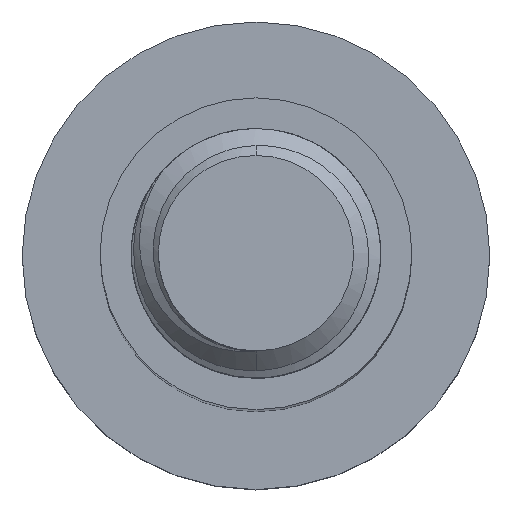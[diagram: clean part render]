
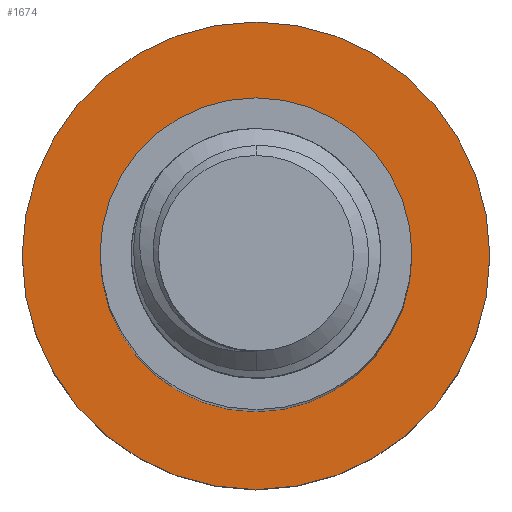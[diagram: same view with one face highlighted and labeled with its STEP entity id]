
A CAD part, top view. The second image highlights one B-rep face of the part: STEP entity #1674.
In plain terms, the highlighted planar face has unit normal (0, 0, 1).
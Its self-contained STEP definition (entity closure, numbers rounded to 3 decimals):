
#110 = ORIENTED_EDGE ( 'NONE', *, *, #5527, .F. ) ;
#212 = CARTESIAN_POINT ( 'NONE',  ( 0., 0., -75. ) ) ;
#357 = CARTESIAN_POINT ( 'NONE',  ( 15., 0., -75. ) ) ;
#383 = DIRECTION ( 'NONE',  ( -1., 0., 0. ) ) ;
#620 = FACE_OUTER_BOUND ( 'NONE', #3389, .T. ) ;
#838 = CARTESIAN_POINT ( 'NONE',  ( 0., 0., -75. ) ) ;
#977 = CIRCLE ( 'NONE', #4563, 15. ) ;
#1075 = PLANE ( 'NONE',  #4173 ) ;
#1115 = EDGE_LOOP ( 'NONE', ( #5613, #1729 ) ) ;
#1425 = VERTEX_POINT ( 'NONE', #2011 ) ;
#1674 = ADVANCED_FACE ( 'NONE', ( #1898, #620 ), #1075, .F. ) ;
#1696 = AXIS2_PLACEMENT_3D ( 'NONE', #5561, #3297, #3266 ) ;
#1729 = ORIENTED_EDGE ( 'NONE', *, *, #2537, .T. ) ;
#1869 = CIRCLE ( 'NONE', #4368, 10. ) ;
#1898 = FACE_BOUND ( 'NONE', #1115, .T. ) ;
#2011 = CARTESIAN_POINT ( 'NONE',  ( -15., 0., -75. ) ) ;
#2241 = AXIS2_PLACEMENT_3D ( 'NONE', #2725, #4499, #3662 ) ;
#2508 = DIRECTION ( 'NONE',  ( 0., 0., -1. ) ) ;
#2537 = EDGE_CURVE ( 'NONE', #4663, #3151, #1869, .T. ) ;
#2625 = VERTEX_POINT ( 'NONE', #357 ) ;
#2725 = CARTESIAN_POINT ( 'NONE',  ( 0., 0., -75. ) ) ;
#2768 = ORIENTED_EDGE ( 'NONE', *, *, #3042, .F. ) ;
#2816 = DIRECTION ( 'NONE',  ( 0., 0., -1. ) ) ;
#2853 = CARTESIAN_POINT ( 'NONE',  ( -10., 0., -75. ) ) ;
#2856 = CARTESIAN_POINT ( 'NONE',  ( 0., 0., -75. ) ) ;
#3042 = EDGE_CURVE ( 'NONE', #1425, #2625, #4279, .T. ) ;
#3045 = DIRECTION ( 'NONE',  ( 0., 0., -1. ) ) ;
#3151 = VERTEX_POINT ( 'NONE', #2853 ) ;
#3266 = DIRECTION ( 'NONE',  ( -1., 0., 0. ) ) ;
#3297 = DIRECTION ( 'NONE',  ( 0., 0., -1. ) ) ;
#3389 = EDGE_LOOP ( 'NONE', ( #110, #2768 ) ) ;
#3662 = DIRECTION ( 'NONE',  ( -1., 0., 0. ) ) ;
#4173 = AXIS2_PLACEMENT_3D ( 'NONE', #212, #2816, #5061 ) ;
#4279 = CIRCLE ( 'NONE', #1696, 15. ) ;
#4368 = AXIS2_PLACEMENT_3D ( 'NONE', #838, #3045, #383 ) ;
#4499 = DIRECTION ( 'NONE',  ( 0., 0., -1. ) ) ;
#4563 = AXIS2_PLACEMENT_3D ( 'NONE', #2856, #2508, #5104 ) ;
#4663 = VERTEX_POINT ( 'NONE', #5453 ) ;
#4752 = EDGE_CURVE ( 'NONE', #3151, #4663, #4755, .T. ) ;
#4755 = CIRCLE ( 'NONE', #2241, 10. ) ;
#5061 = DIRECTION ( 'NONE',  ( -1., 0., 0. ) ) ;
#5104 = DIRECTION ( 'NONE',  ( -1., 0., 0. ) ) ;
#5453 = CARTESIAN_POINT ( 'NONE',  ( 10., 0., -75. ) ) ;
#5527 = EDGE_CURVE ( 'NONE', #2625, #1425, #977, .T. ) ;
#5561 = CARTESIAN_POINT ( 'NONE',  ( 0., 0., -75. ) ) ;
#5613 = ORIENTED_EDGE ( 'NONE', *, *, #4752, .T. ) ;
